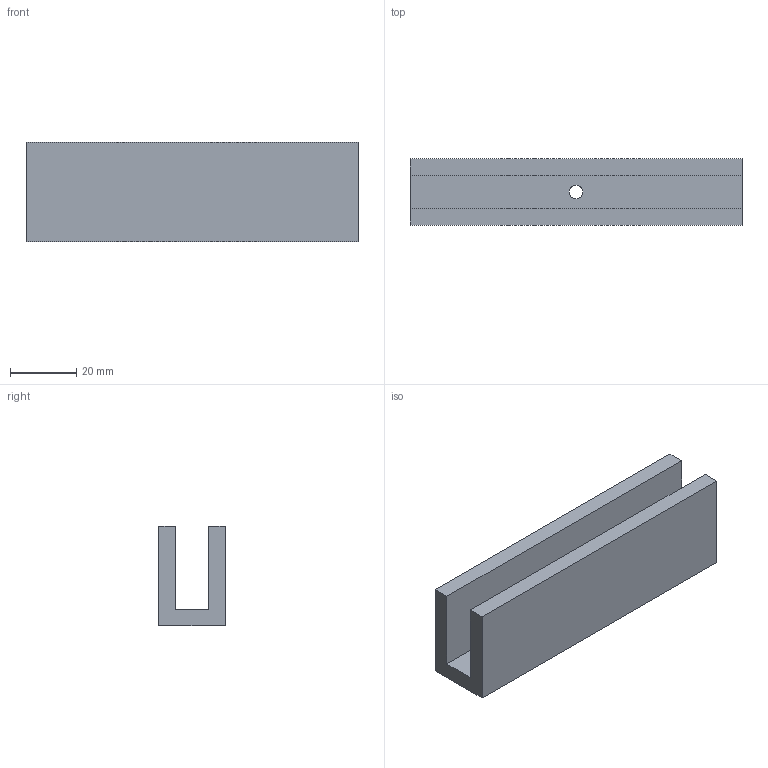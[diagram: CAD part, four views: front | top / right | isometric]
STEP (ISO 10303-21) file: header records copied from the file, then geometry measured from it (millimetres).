
FILE_DESCRIPTION (( 'STEP AP214' ), '1' );
FILE_NAME ('phone enlosure 2.STEP', '2026-10-09T20:53:28', ( '' ), ( '' ), 'SwSTEP 2.0', 'SolidWorks 2026', '' );
FILE_SCHEMA (( 'AUTOMOTIVE_DESIGN' ));
Length unit declared in the file: millimetre
Products named in the file (1): phone enlosure 2
Bounding box: 100 x 20 x 30 mm (x, y, z)
Volume: 34937.2 mm3; surface area: 15737.7 mm2
Topology: 1 solids, 1 shells, 12 faces, 30 edges, 20 vertices
Faces by surface type: plane 10, cylinder 2
Entity records: 385 total; most frequent: CARTESIAN_POINT 63, ORIENTED_EDGE 60, DIRECTION 60, EDGE_CURVE 30, VECTOR 26, LINE 26, VERTEX_POINT 20, AXIS2_PLACEMENT_3D 17
